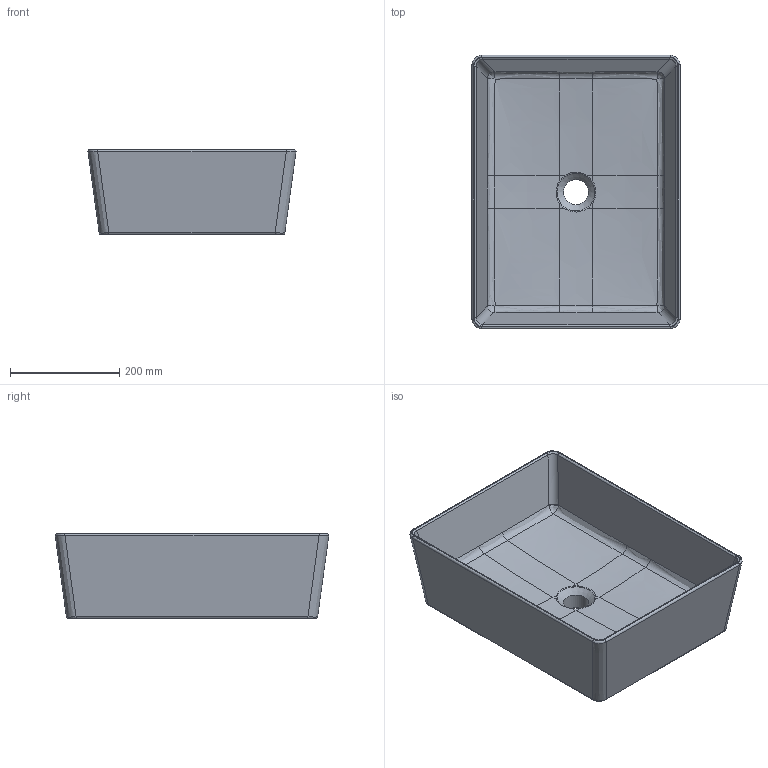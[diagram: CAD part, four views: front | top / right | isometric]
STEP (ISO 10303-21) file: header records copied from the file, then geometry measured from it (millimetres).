
FILE_DESCRIPTION(/* description */ (''),/* implementation_level */ '2;1');
FILE_NAME(/* name */ 'LAVABO_HAPPY_HOUR_11-00_(rettangolare)_PROTAP_01_20210316.stp',/* time_stamp */ '2021-03-16T15:41:18+01:00',/* author */ (''),/* organization */ (''),/* preprocessor_version */ 'ST-DEVELOPER v16.7',/* originating_system */ 'SIEMENS PLM Software NX 12.0',/* authorisation */ '');
FILE_SCHEMA (('AUTOMOTIVE_DESIGN { 1 0 10303 214 3 1 1 1 }'));
Length unit declared in the file: millimetre
Products named in the file (1): Cava24A4947B23h1
Bounding box: 380.97 x 500.97 x 155 mm (x, y, z)
Volume: 6381261.9 mm3; surface area: 765117.9 mm2
Topology: 1 solids, 1 shells, 245 faces, 576 edges, 342 vertices
Faces by surface type: bspline 184, cylinder 35, plane 23, cone 2, torus 1
Full cylindrical faces by diameter (mm): 8 x2, 46 x1
Entity records: 14787 total; most frequent: CARTESIAN_POINT 10575, ORIENTED_EDGE 1112, EDGE_CURVE 556, DIRECTION 452, B_SPLINE_CURVE_WITH_KNOTS 360, VERTEX_POINT 336, EDGE_LOOP 270, ADVANCED_FACE 245
